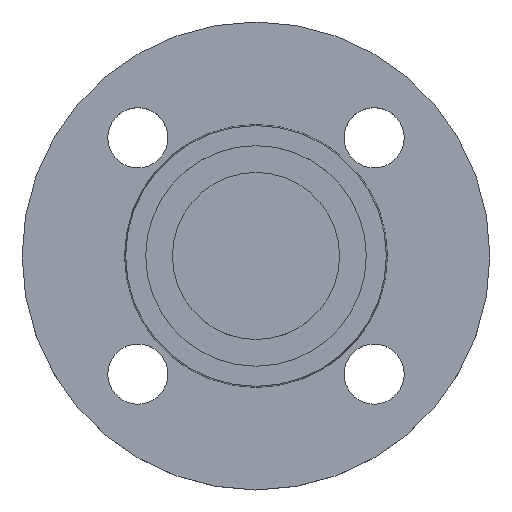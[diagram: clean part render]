
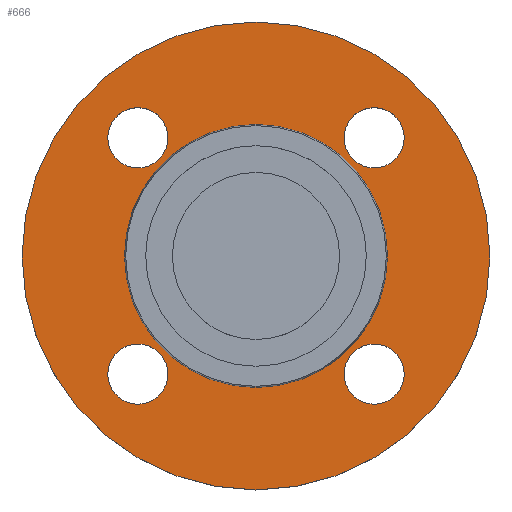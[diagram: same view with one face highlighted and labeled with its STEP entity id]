
A CAD part, top view. The second image highlights one B-rep face of the part: STEP entity #666.
In plain terms, the highlighted planar face has unit normal (0, 0, 1).
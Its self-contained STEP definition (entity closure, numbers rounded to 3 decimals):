
#1 = ORIENTED_EDGE ( 'NONE', *, *, #800, .T. ) ;
#2 = DIRECTION ( 'NONE',  ( 1., 0., 0. ) ) ;
#3 = DIRECTION ( 'NONE',  ( 1., 0., 0. ) ) ;
#22 = CIRCLE ( 'NONE', #472, 9. ) ;
#25 = VERTEX_POINT ( 'NONE', #266 ) ;
#33 = VERTEX_POINT ( 'NONE', #515 ) ;
#42 = VERTEX_POINT ( 'NONE', #276 ) ;
#56 = AXIS2_PLACEMENT_3D ( 'NONE', #557, #806, #244 ) ;
#60 = DIRECTION ( 'NONE',  ( 1., 0., 0. ) ) ;
#74 = EDGE_CURVE ( 'NONE', #93, #25, #720, .T. ) ;
#78 = ORIENTED_EDGE ( 'NONE', *, *, #367, .F. ) ;
#82 = ORIENTED_EDGE ( 'NONE', *, *, #265, .T. ) ;
#84 = AXIS2_PLACEMENT_3D ( 'NONE', #308, #563, #2 ) ;
#85 = DIRECTION ( 'NONE',  ( 0., 0., -1. ) ) ;
#90 = CARTESIAN_POINT ( 'NONE',  ( -35.355, -35.355, -2. ) ) ;
#93 = VERTEX_POINT ( 'NONE', #460 ) ;
#97 = AXIS2_PLACEMENT_3D ( 'NONE', #361, #623, #60 ) ;
#126 = DIRECTION ( 'NONE',  ( 1., 0., 0. ) ) ;
#130 = CARTESIAN_POINT ( 'NONE',  ( 44.355, 35.355, -2. ) ) ;
#132 = CARTESIAN_POINT ( 'NONE',  ( 35.355, -35.355, -2. ) ) ;
#137 = CARTESIAN_POINT ( 'NONE',  ( 35.355, -35.355, -2. ) ) ;
#140 = VERTEX_POINT ( 'NONE', #130 ) ;
#144 = ORIENTED_EDGE ( 'NONE', *, *, #665, .T. ) ;
#155 = EDGE_CURVE ( 'NONE', #42, #466, #790, .T. ) ;
#159 = ORIENTED_EDGE ( 'NONE', *, *, #601, .T. ) ;
#166 = EDGE_LOOP ( 'NONE', ( #462, #78 ) ) ;
#169 = DIRECTION ( 'NONE',  ( -1., 0., 0. ) ) ;
#171 = CIRCLE ( 'NONE', #634, 39.353 ) ;
#188 = PLANE ( 'NONE',  #551 ) ;
#197 = DIRECTION ( 'NONE',  ( -1., 0., 0. ) ) ;
#211 = EDGE_CURVE ( 'NONE', #33, #273, #517, .T. ) ;
#236 = ORIENTED_EDGE ( 'NONE', *, *, #479, .T. ) ;
#237 = AXIS2_PLACEMENT_3D ( 'NONE', #555, #805, #243 ) ;
#239 = DIRECTION ( 'NONE',  ( -1., 0., 0. ) ) ;
#243 = DIRECTION ( 'NONE',  ( 1., 0., 0. ) ) ;
#244 = DIRECTION ( 'NONE',  ( 1., 0., 0. ) ) ;
#247 = FACE_BOUND ( 'NONE', #740, .T. ) ;
#249 = EDGE_LOOP ( 'NONE', ( #1, #406 ) ) ;
#256 = AXIS2_PLACEMENT_3D ( 'NONE', #90, #334, #589 ) ;
#265 = EDGE_CURVE ( 'NONE', #657, #681, #376, .T. ) ;
#266 = CARTESIAN_POINT ( 'NONE',  ( -26.355, -35.355, -2. ) ) ;
#269 = VERTEX_POINT ( 'NONE', #408 ) ;
#273 = VERTEX_POINT ( 'NONE', #674 ) ;
#276 = CARTESIAN_POINT ( 'NONE',  ( 70., 0., -2. ) ) ;
#300 = CIRCLE ( 'NONE', #765, 9. ) ;
#305 = FACE_BOUND ( 'NONE', #249, .T. ) ;
#308 = CARTESIAN_POINT ( 'NONE',  ( 35.355, 35.355, -2. ) ) ;
#309 = CARTESIAN_POINT ( 'NONE',  ( -35.355, 35.355, -2. ) ) ;
#312 = CARTESIAN_POINT ( 'NONE',  ( 39.353, 0., -2. ) ) ;
#327 = AXIS2_PLACEMENT_3D ( 'NONE', #137, #379, #640 ) ;
#331 = DIRECTION ( 'NONE',  ( -1., 0., 0. ) ) ;
#332 = AXIS2_PLACEMENT_3D ( 'NONE', #509, #761, #197 ) ;
#334 = DIRECTION ( 'NONE',  ( 0., 0., -1. ) ) ;
#339 = CIRCLE ( 'NONE', #97, 9. ) ;
#361 = CARTESIAN_POINT ( 'NONE',  ( -35.355, -35.355, -2. ) ) ;
#365 = CARTESIAN_POINT ( 'NONE',  ( 0., 0., -2. ) ) ;
#367 = EDGE_CURVE ( 'NONE', #466, #42, #571, .T. ) ;
#373 = DIRECTION ( 'NONE',  ( 0., 0., -1. ) ) ;
#376 = CIRCLE ( 'NONE', #738, 39.353 ) ;
#379 = DIRECTION ( 'NONE',  ( 0., 0., -1. ) ) ;
#387 = CARTESIAN_POINT ( 'NONE',  ( 26.355, 35.355, -2. ) ) ;
#398 = ORIENTED_EDGE ( 'NONE', *, *, #647, .T. ) ;
#406 = ORIENTED_EDGE ( 'NONE', *, *, #734, .T. ) ;
#408 = CARTESIAN_POINT ( 'NONE',  ( 26.355, -35.355, -2. ) ) ;
#421 = ORIENTED_EDGE ( 'NONE', *, *, #74, .T. ) ;
#427 = CIRCLE ( 'NONE', #84, 9. ) ;
#429 = CARTESIAN_POINT ( 'NONE',  ( 39.353, 0., -2. ) ) ;
#460 = CARTESIAN_POINT ( 'NONE',  ( -44.355, -35.355, -2. ) ) ;
#462 = ORIENTED_EDGE ( 'NONE', *, *, #155, .F. ) ;
#466 = VERTEX_POINT ( 'NONE', #496 ) ;
#472 = AXIS2_PLACEMENT_3D ( 'NONE', #132, #373, #636 ) ;
#474 = ORIENTED_EDGE ( 'NONE', *, *, #211, .T. ) ;
#479 = EDGE_CURVE ( 'NONE', #140, #599, #427, .T. ) ;
#492 = CARTESIAN_POINT ( 'NONE',  ( 44.355, -35.355, -2. ) ) ;
#496 = CARTESIAN_POINT ( 'NONE',  ( -70., 0., -2. ) ) ;
#497 = FACE_BOUND ( 'NONE', #772, .T. ) ;
#509 = CARTESIAN_POINT ( 'NONE',  ( 0., 0., -2. ) ) ;
#515 = CARTESIAN_POINT ( 'NONE',  ( -26.355, 35.355, -2. ) ) ;
#517 = CIRCLE ( 'NONE', #56, 9. ) ;
#550 = CARTESIAN_POINT ( 'NONE',  ( 0., 0., -2. ) ) ;
#551 = AXIS2_PLACEMENT_3D ( 'NONE', #429, #695, #126 ) ;
#555 = CARTESIAN_POINT ( 'NONE',  ( 35.355, 35.355, -2. ) ) ;
#557 = CARTESIAN_POINT ( 'NONE',  ( -35.355, 35.355, -2. ) ) ;
#561 = FACE_BOUND ( 'NONE', #732, .T. ) ;
#563 = DIRECTION ( 'NONE',  ( 0., 0., -1. ) ) ;
#565 = DIRECTION ( 'NONE',  ( 0., 0., -1. ) ) ;
#571 = CIRCLE ( 'NONE', #675, 70. ) ;
#589 = DIRECTION ( 'NONE',  ( 1., 0., 0. ) ) ;
#596 = CIRCLE ( 'NONE', #237, 9. ) ;
#599 = VERTEX_POINT ( 'NONE', #387 ) ;
#601 = EDGE_CURVE ( 'NONE', #681, #657, #171, .T. ) ;
#623 = DIRECTION ( 'NONE',  ( 0., 0., -1. ) ) ;
#627 = DIRECTION ( 'NONE',  ( 0., 0., -1. ) ) ;
#634 = AXIS2_PLACEMENT_3D ( 'NONE', #648, #85, #331 ) ;
#636 = DIRECTION ( 'NONE',  ( 1., 0., 0. ) ) ;
#640 = DIRECTION ( 'NONE',  ( 1., 0., 0. ) ) ;
#647 = EDGE_CURVE ( 'NONE', #599, #140, #596, .T. ) ;
#648 = CARTESIAN_POINT ( 'NONE',  ( 0., 0., -2. ) ) ;
#656 = VERTEX_POINT ( 'NONE', #492 ) ;
#657 = VERTEX_POINT ( 'NONE', #746 ) ;
#665 = EDGE_CURVE ( 'NONE', #25, #93, #339, .T. ) ;
#666 = ADVANCED_FACE ( 'NONE', ( #305, #561, #808, #247, #497, #749 ), #188, .T. ) ;
#670 = EDGE_CURVE ( 'NONE', #273, #33, #300, .T. ) ;
#674 = CARTESIAN_POINT ( 'NONE',  ( -44.355, 35.355, -2. ) ) ;
#675 = AXIS2_PLACEMENT_3D ( 'NONE', #550, #799, #239 ) ;
#681 = VERTEX_POINT ( 'NONE', #312 ) ;
#692 = CIRCLE ( 'NONE', #327, 9. ) ;
#695 = DIRECTION ( 'NONE',  ( 0., 0., 1. ) ) ;
#707 = ORIENTED_EDGE ( 'NONE', *, *, #670, .T. ) ;
#720 = CIRCLE ( 'NONE', #256, 9. ) ;
#732 = EDGE_LOOP ( 'NONE', ( #144, #421 ) ) ;
#734 = EDGE_CURVE ( 'NONE', #269, #656, #22, .T. ) ;
#738 = AXIS2_PLACEMENT_3D ( 'NONE', #365, #627, #169 ) ;
#740 = EDGE_LOOP ( 'NONE', ( #236, #398 ) ) ;
#746 = CARTESIAN_POINT ( 'NONE',  ( -39.353, 0., -2. ) ) ;
#749 = FACE_OUTER_BOUND ( 'NONE', #166, .T. ) ;
#761 = DIRECTION ( 'NONE',  ( 0., 0., -1. ) ) ;
#765 = AXIS2_PLACEMENT_3D ( 'NONE', #309, #565, #3 ) ;
#772 = EDGE_LOOP ( 'NONE', ( #82, #159 ) ) ;
#790 = CIRCLE ( 'NONE', #332, 70. ) ;
#793 = EDGE_LOOP ( 'NONE', ( #474, #707 ) ) ;
#799 = DIRECTION ( 'NONE',  ( 0., 0., -1. ) ) ;
#800 = EDGE_CURVE ( 'NONE', #656, #269, #692, .T. ) ;
#805 = DIRECTION ( 'NONE',  ( 0., 0., -1. ) ) ;
#806 = DIRECTION ( 'NONE',  ( 0., 0., -1. ) ) ;
#808 = FACE_BOUND ( 'NONE', #793, .T. ) ;
